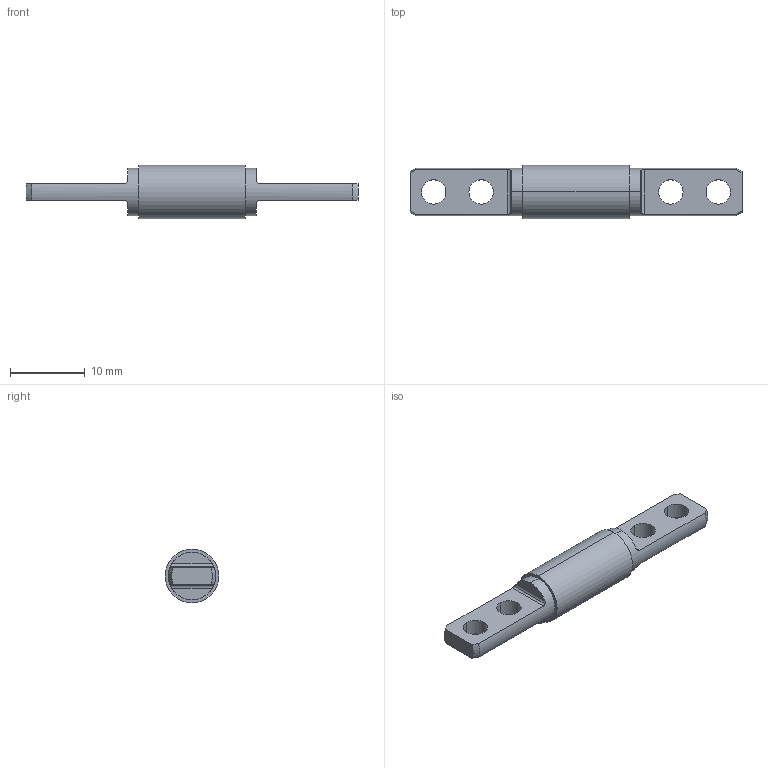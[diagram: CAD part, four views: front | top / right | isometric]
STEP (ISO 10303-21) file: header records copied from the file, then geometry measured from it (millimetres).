
FILE_DESCRIPTION(('STEP AP214'),'1');
FILE_NAME('C:/Users/HAN/Desktop/1000-0501-HNG Rev 0_0.stp','2012-12-04T03:56:57',(' '),(' '),'Spatial InterOp 3D',' ',' ');
FILE_SCHEMA(('automotive_design'));
Length unit declared in the file: inch
Products named in the file (3): 1000-0501-BND Rev 0_0; 1000-0501-SHA Rev 0_0
Bounding box: 44.45 x 7.16 x 7.16 mm (x, y, z)
Volume: 965.1 mm3; surface area: 1445.2 mm2
Topology: 3 solids, 3 shells, 58 faces, 140 edges, 92 vertices
Faces by surface type: cylinder 32, plane 18, cone 8
Entity records: 2430 total; most frequent: CARTESIAN_POINT 533, DIRECTION 302, ORIENTED_EDGE 280, EDGE_CURVE 140, AXIS2_PLACEMENT_3D 125, VERTEX_POINT 92, EDGE_LOOP 72, CIRCLE 64
